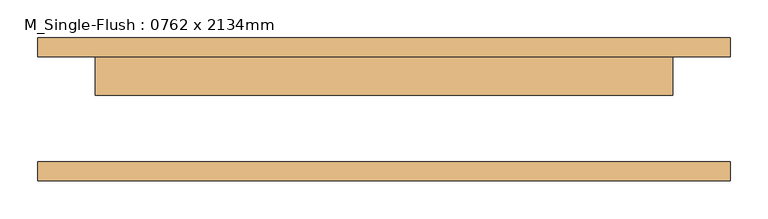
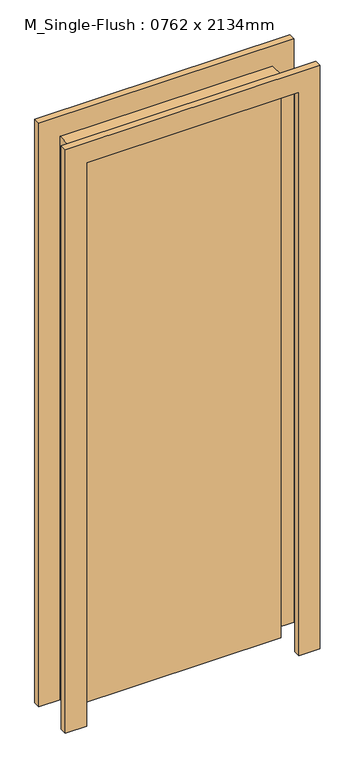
"""IFC4 building model written with IfcOpenShell, lengths in millimetres: door geometry, M_Single-Flush : 0762 x 2134mm."""

from ifc_helpers import new_model, si_unit, frame, origin, origin_with_axes, place, context, project, spatial, polyline, outline, extrude, source, transform, mapped, element, save


def m_single_flush_0762_x_2134mm_e7e18077(model_context):
    return source(origin(), model_context, "Body", "SweptSolid", [
        extrude(outline(polyline([(2210.0, -457.0), (0.0, -457.0), (0.0, -381.0), (2134.0, -381.0), (2134.0, 381.0), (0.0, 381.0), (0.0, 457.0), (2210.0, 457.0), (2210.0, -457.0)])), frame((0.0, 69.25, 0.0), z_axis=(0.0, 1.0, 0.0), x_axis=(0.0, 0.0, 1.0)), (0.0, 0.0, 1.0), 25.0),
        extrude(outline(polyline([(2210.0, 457.0), (2210.0, -457.0), (0.0, -457.0), (0.0, -381.0), (2134.0, -381.0), (2134.0, 381.0), (0.0, 381.0), (0.0, 457.0), (2210.0, 457.0)])), frame((0.0, -94.25, 0.0), z_axis=(0.0, 1.0, 0.0), x_axis=(0.0, 0.0, 1.0)), (0.0, 0.0, 1.0), 25.0),
        extrude(outline(polyline([(381.0, 18.25), (-381.0, 18.25), (-381.0, 69.25), (381.0, 69.25), (381.0, 18.25)])), origin_with_axes(), (0.0, 0.0, 1.0), 2134.0),
    ])


if __name__ == "__main__":
    model = new_model("IFC4")
    model_context = context("Model", 3, world=origin())
    ifc_project = project(units=[si_unit("LENGTHUNIT", "METRE", prefix="MILLI")], contexts=[model_context])
    site = spatial("IfcSite", under=ifc_project)
    building = spatial("IfcBuilding", under=site)
    placement = place(None, origin())
    m_single_flush_0762_x_2134mm_shape = m_single_flush_0762_x_2134mm_e7e18077(model_context)
    element("IfcDoor", 1, ObjectType="M_Single-Flush : 0762 x 2134mm", at=placement, inside=building, context=model_context, shape_type="MappedRepresentation", body=[
        mapped(m_single_flush_0762_x_2134mm_shape, transform((0.0, 0.0, 0.0), x_axis=(1.0, 0.0, 0.0), y_axis=(0.0, 1.0, 0.0), z_axis=(0.0, 0.0, 1.0))),
    ])
    save(model, "model.ifc")
